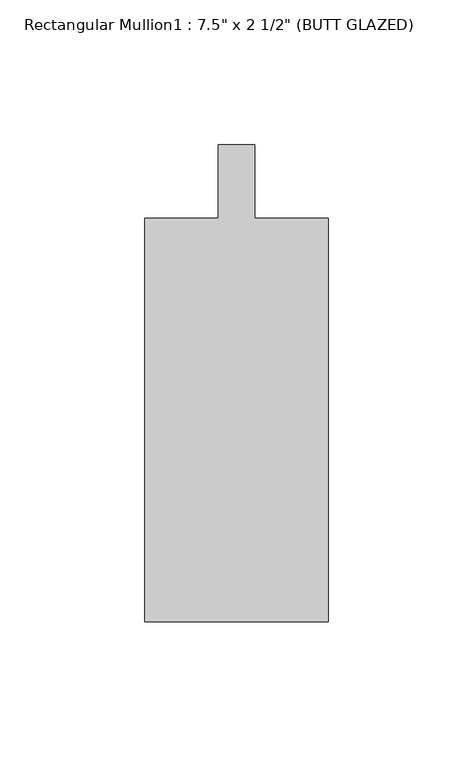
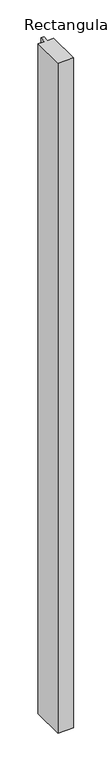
"""IFC4 building model written with IfcOpenShell, lengths in millimetres: member geometry."""

from ifc_helpers import new_model, si_unit, frame, origin, place, context, project, spatial, polyline, outline, extrude, source, transform, mapped, element, save


def member_992eddb5(model_context):
    return source(origin(), model_context, "Body", "SweptSolid", [
        extrude(outline(polyline([(31.75, -165.1), (-31.75, -165.1), (-31.75, -25.4), (-6.35, -25.4), (-6.35, 0.0), (6.35, 0.0), (6.35, -25.4), (31.75, -25.4), (31.75, -165.1)])), frame((0.0, 0.0, -2908.3), z_axis=(0.0, 0.0, 1.0), x_axis=(1.0, 0.0, 0.0)), (0.0, 0.0, 1.0), 2908.3),
    ])


if __name__ == "__main__":
    model = new_model("IFC4")
    model_context = context("Model", 3, world=origin())
    ifc_project = project(units=[si_unit("LENGTHUNIT", "METRE", prefix="MILLI")], contexts=[model_context])
    site = spatial("IfcSite", under=ifc_project)
    building = spatial("IfcBuilding", under=site)
    placement = place(None, origin())
    member_shape = member_992eddb5(model_context)
    element("IfcMember", 1, ObjectType="Rectangular Mullion1 : 7.5\" x 2 1/2\" (BUTT GLAZED)", at=placement, inside=building, context=model_context, shape_type="MappedRepresentation", body=[
        mapped(member_shape, transform((0.0, 0.0, 0.0), x_axis=(1.0, 0.0, 0.0), y_axis=(0.0, 1.0, 0.0), z_axis=(0.0, 0.0, 1.0))),
    ])
    save(model, "model.ifc")
